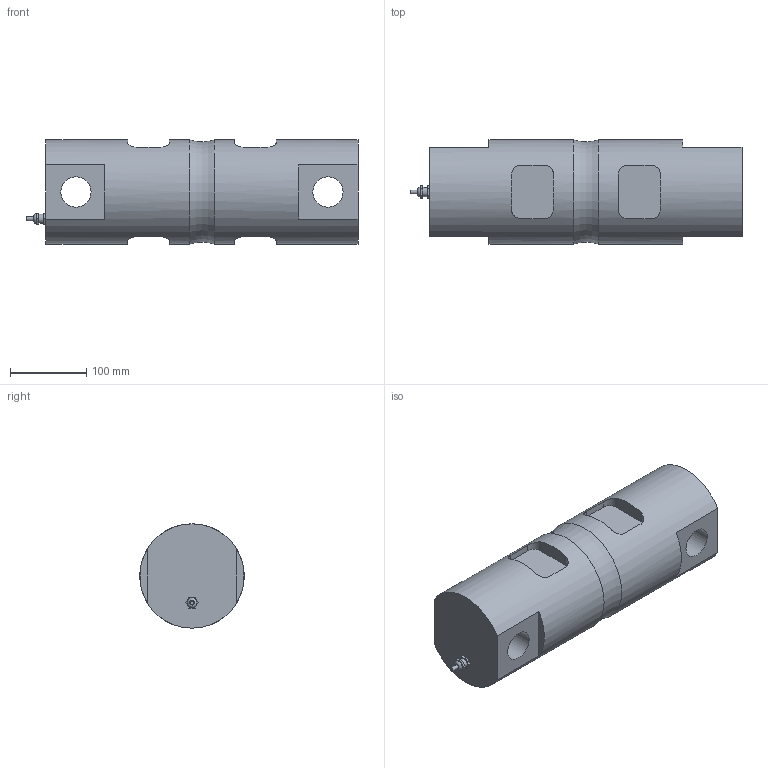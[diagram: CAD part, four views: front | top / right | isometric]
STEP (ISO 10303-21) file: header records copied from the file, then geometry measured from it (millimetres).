
FILE_DESCRIPTION(/* description */ (''),/* implementation_level */ '2;1');
FILE_NAME(/* name */ 'C:/Users/fardi/Dropbox/Anyload/Load Cell Models/3D Drawing/102/102DH/102DH-200klb v2.step',/* time_stamp */ '2020-01-24T13:45:52-08:00',/* author */ (''),/* organization */ (''),/* preprocessor_version */ 'ST-DEVELOPER v18',/* originating_system */ 'Autodesk Translation Framework v8.12.0.6',/* authorisation */ '');
FILE_SCHEMA (('AUTOMOTIVE_DESIGN { 1 0 10303 214 3 1 1 }'));
Length unit declared in the file: inch
Products named in the file (2): 102DH-200klb; Connector
Assembly tree (1 placements, depth 2):
  102DH-200klb
    Connector
Bounding box: 434.97 x 136.65 x 136.65 mm (x, y, z)
Volume: 5310450.1 mm3; surface area: 240433.7 mm2
Topology: 2 solids, 2 shells, 77 faces, 196 edges, 130 vertices
Faces by surface type: plane 49, cylinder 25, bspline 1, cone 1, torus 1
Full cylindrical faces by diameter (mm): 5.1 x1, 10 x1, 12 x2, 13 x1, 39.624 x2, 136.652 x2
Entity records: 2558 total; most frequent: CARTESIAN_POINT 607, DIRECTION 396, ORIENTED_EDGE 390, EDGE_CURVE 195, AXIS2_PLACEMENT_3D 138, VERTEX_POINT 130, LINE 120, VECTOR 120
